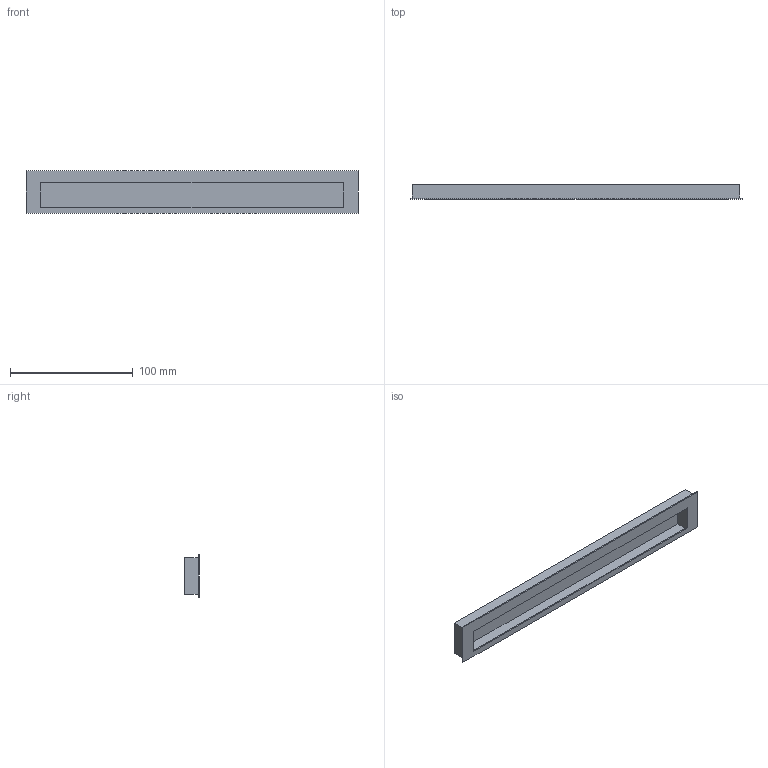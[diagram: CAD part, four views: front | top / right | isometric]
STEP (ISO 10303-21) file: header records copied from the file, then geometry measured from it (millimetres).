
FILE_DESCRIPTION( ( '' ), '1' );
FILE_NAME( 'C:/Documents and Settings/Sachin/Desktop/Sheet 10_1/stp/ 9071079.stp', '2013-10-22T05:57:33', ( '' ), ( '' ), ' ', ' ', ' ' );
FILE_SCHEMA( ( 'CONFIG_CONTROL_DESIGN' ) );
Length unit declared in the file: millimetre
Products named in the file (1): 1
Bounding box: 271 x 12 x 35 mm (x, y, z)
Volume: 23293.9 mm3; surface area: 36303.1 mm2
Topology: 1 solids, 1 shells, 26 faces, 60 edges, 40 vertices
Faces by surface type: plane 22, cylinder 4
Entity records: 776 total; most frequent: CARTESIAN_POINT 127, DIRECTION 122, ORIENTED_EDGE 120, EDGE_CURVE 60, LINE 52, VECTOR 52, VERTEX_POINT 40, AXIS2_PLACEMENT_3D 35
